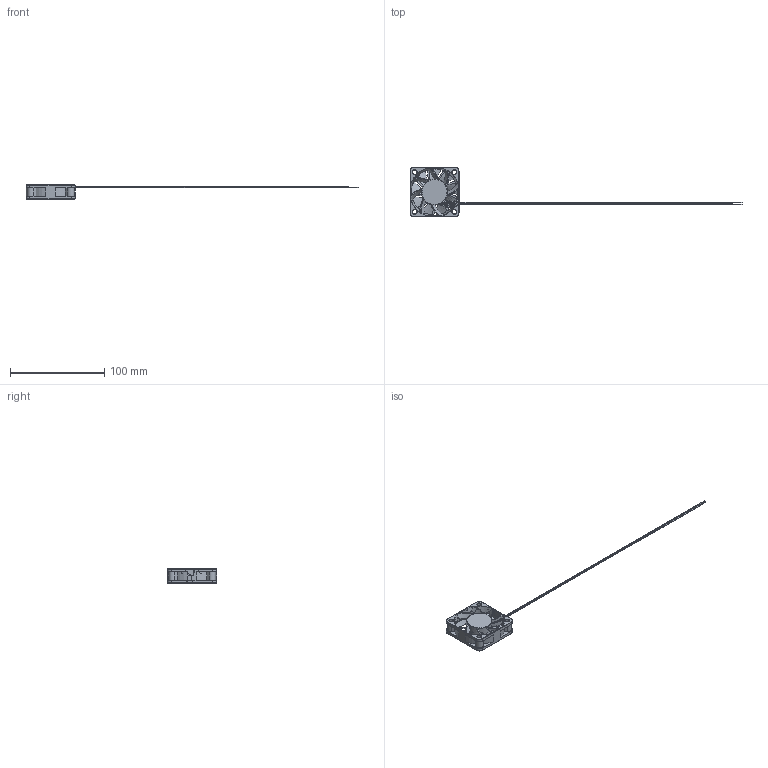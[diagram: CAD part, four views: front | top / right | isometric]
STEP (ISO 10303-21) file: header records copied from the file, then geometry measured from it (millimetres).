
FILE_DESCRIPTION (( 'STEP AP203' ), '1' );
FILE_NAME ('E275.step', '2018-09-12T05:39:12', ( 'om' ), ( 'Hewlett-Packard Company' ), 'SwSTEP 2.0', 'SolidWorks 2017', '' );
FILE_SCHEMA (( 'CONFIG_CONTROL_DESIGN' ));
Length unit declared in the file: millimetre
Products named in the file (1): E275
Bounding box: 352 x 52 x 15 mm (x, y, z)
Volume: 17473.3 mm3; surface area: 16429.7 mm2
Topology: 1 solids, 1 shells, 426 faces, 1236 edges, 811 vertices
Faces by surface type: cylinder 139, plane 113, torus 70, bspline 58, cone 46
Entity records: 20526 total; most frequent: CARTESIAN_POINT 9944, ORIENTED_EDGE 2472, DIRECTION 1909, EDGE_CURVE 1236, VERTEX_POINT 811, AXIS2_PLACEMENT_3D 804, B_SPLINE_CURVE_WITH_KNOTS 500, EDGE_LOOP 449
